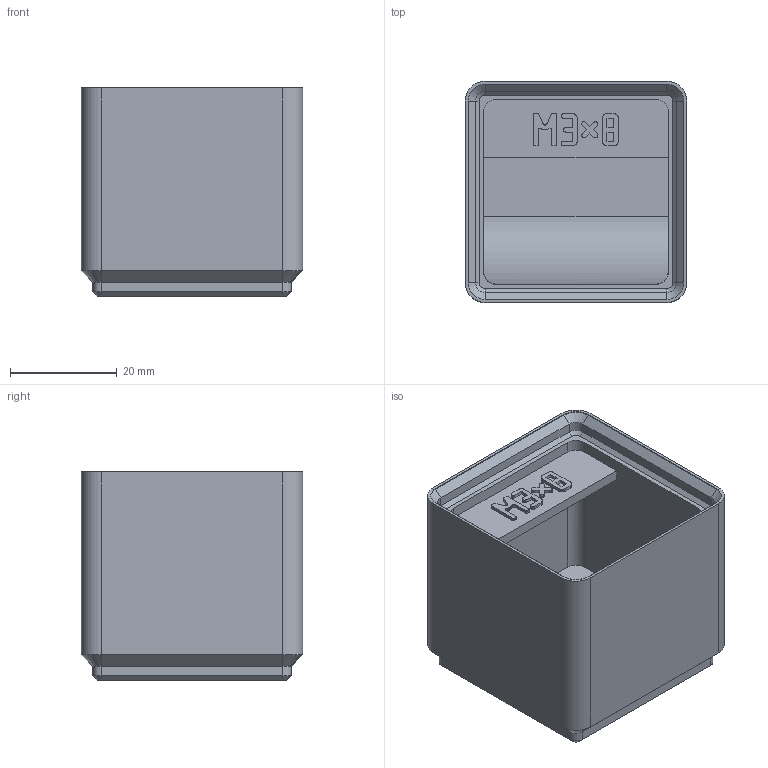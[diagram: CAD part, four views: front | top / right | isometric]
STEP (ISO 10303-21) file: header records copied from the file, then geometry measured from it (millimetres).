
FILE_DESCRIPTION(('Open CASCADE Model'),'2;1');
FILE_NAME('m3-screw-8','2026-11-17T16:08:06',('Author'),('Open CASCADE') ,'Open CASCADE STEP processor 8.0','build123d','Unknown');
FILE_SCHEMA(('AUTOMOTIVE_DESIGN { 1 0 10303 214 1 1 1 1 }'));
Length unit declared in the file: millimetre
Products named in the file (1): m3-screw-8
Bounding box: 41.5 x 41.5 x 39 mm (x, y, z)
Volume: 30858.3 mm3; surface area: 13667.9 mm2
Topology: 1 solids, 1 shells, 484 faces, 1374 edges, 900 vertices
Faces by surface type: plane 445, cylinder 22, cone 16, extrusion 1
Entity records: 32626 total; most frequent: CARTESIAN_POINT 6832, DIRECTION 4177, VECTOR 3087, LINE 3086, ORIENTED_EDGE 2748, PCURVE 2748, DEFINITIONAL_REPRESENTATION 2748, EDGE_CURVE 1374
